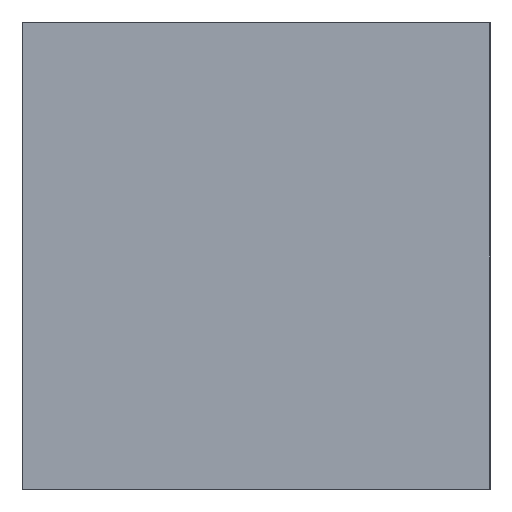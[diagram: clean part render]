
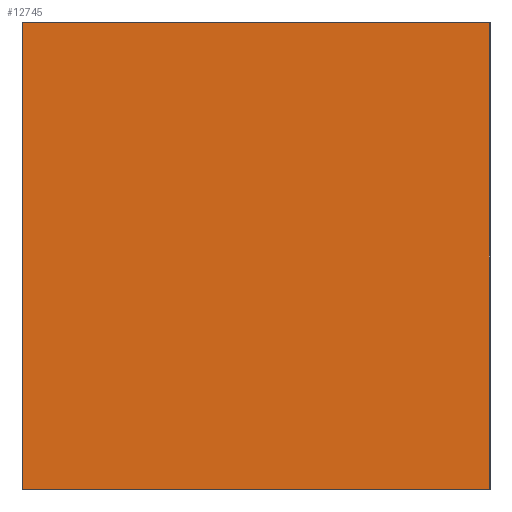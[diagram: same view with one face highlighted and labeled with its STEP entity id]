
A CAD part, top view. The second image highlights one B-rep face of the part: STEP entity #12745.
In plain terms, the highlighted planar face has unit normal (0, 0, 1).
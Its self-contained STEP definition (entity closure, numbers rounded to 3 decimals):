
#12706=CARTESIAN_POINT('',(0.,0.,20.));
#12707=DIRECTION('',(1.,0.,0.));
#12708=DIRECTION('',(0.,0.,1.));
#12709=AXIS2_PLACEMENT_3D('',#12706,#12708,#12707);
#12710=PLANE('',#12709);
#12711=CARTESIAN_POINT('',(548.5,-548.5,20.));
#12712=VERTEX_POINT('',#12711);
#12713=CARTESIAN_POINT('',(548.5,548.5,20.));
#12714=VERTEX_POINT('',#12713);
#12715=CARTESIAN_POINT('',(548.5,-548.5,20.));
#12716=DIRECTION('',(0.,1.,0.));
#12717=VECTOR('',#12716,1097.);
#12718=LINE('',#12715,#12717);
#12719=EDGE_CURVE('',#12712,#12714,#12718,.T.);
#12720=ORIENTED_EDGE('E118',*,*,#12719,.T.);
#12721=CARTESIAN_POINT('',(-548.5,548.5,20.));
#12722=VERTEX_POINT('',#12721);
#12723=CARTESIAN_POINT('',(548.5,548.5,20.));
#12724=DIRECTION('',(-1.,0.,0.));
#12725=VECTOR('',#12724,1097.);
#12726=LINE('',#12723,#12725);
#12727=EDGE_CURVE('',#12714,#12722,#12726,.T.);
#12728=ORIENTED_EDGE('E119',*,*,#12727,.T.);
#12729=CARTESIAN_POINT('',(-548.5,-548.5,20.));
#12730=VERTEX_POINT('',#12729);
#12731=CARTESIAN_POINT('',(-548.5,548.5,20.));
#12732=DIRECTION('',(0.,-1.,0.));
#12733=VECTOR('',#12732,1097.);
#12734=LINE('',#12731,#12733);
#12735=EDGE_CURVE('',#12722,#12730,#12734,.T.);
#12736=ORIENTED_EDGE('E120',*,*,#12735,.T.);
#12737=CARTESIAN_POINT('',(-548.5,-548.5,20.));
#12738=DIRECTION('',(1.,0.,0.));
#12739=VECTOR('',#12738,1097.);
#12740=LINE('',#12737,#12739);
#12741=EDGE_CURVE('',#12730,#12712,#12740,.T.);
#12742=ORIENTED_EDGE('E117',*,*,#12741,.T.);
#12743=EDGE_LOOP('',(#12720,#12728,#12736,#12742));
#12744=FACE_OUTER_BOUND('',#12743,.T.);
#12745=ADVANCED_FACE('F2',(#12744),#12710,.T.);
